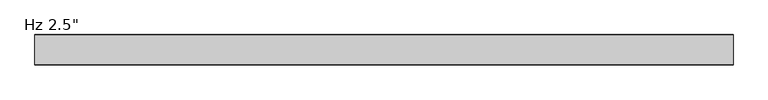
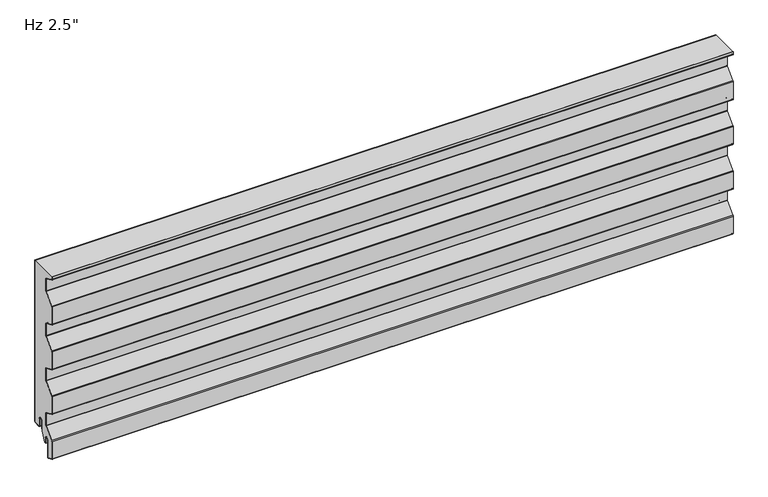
"""IFC4 building model written with IfcOpenShell, lengths in millimetres: plate geometry."""

from ifc_helpers import new_model, si_unit, point, frame, frame_2d, origin, place, context, project, spatial, polyline, circle_curve, trimmed, segment, composite_curve, outline, extrude, source, transform, mapped, element, save


def plate_a90ba0c7(model_context):
    return source(origin(), model_context, "Body", "SweptSolid", [
        extrude(outline(composite_curve([segment(polyline([(-26.4011912, 19.05), (-26.4011912, -3.1976612), (-36.533822, -23.01875), (-38.6886912, -23.01875), (-38.6886912, -11.90625)]), True, "CONTINUOUS"), segment(trimmed(circle_curve(frame_2d((-43.6574412, -11.90625)), 4.96875), [point((-38.6886912, -11.90625))], [point((-48.6261912, -11.90625))], True, "CARTESIAN"), True, "CONTINUOUS"), segment(polyline([(-48.6261912, -11.90625), (-48.6261912, -48.8194049)]), True, "CONTINUOUS"), segment(trimmed(circle_curve(frame_2d((-50.0074412, -48.8194049)), 1.38125), [point((-48.6261912, -48.8194049))], [point((-50.5666208, -50.0824052))], False, "CARTESIAN"), True, "CONTINUOUS"), segment(polyline([(-50.5666208, -50.0824052), (-61.6779296, -45.1629946)]), True, "CONTINUOUS"), segment(trimmed(circle_curve(frame_2d((-61.11875, -43.8999943)), 1.38125), [point((-61.6779296, -45.1629946))], [point((-62.5, -43.8999943))], False, "CARTESIAN"), True, "CONTINUOUS"), segment(polyline([(-62.5, -43.8999943), (-62.5, -5.0536946)]), True, "CONTINUOUS"), segment(trimmed(circle_curve(frame_2d((-60.4012, -5.0536946)), 2.0988), [point((-62.5, -5.0536946))], [point((-61.9092077, -3.5939431))], False, "CARTESIAN"), True, "CONTINUOUS"), segment(polyline([(-61.9092077, -3.5939431), (-41.7145567, 17.2682996)]), True, "CONTINUOUS"), segment(trimmed(circle_curve(frame_2d((-43.5737, 19.0679503)), 2.5875), [point((-41.7145567, 17.2682996))], [point((-40.9862, 19.0679503))], True, "CARTESIAN"), True, "CONTINUOUS"), segment(polyline([(-40.9862, 19.0679503), (-40.9862, 45.5917981)]), True, "CONTINUOUS"), segment(trimmed(circle_curve(frame_2d((-43.5737, 45.5917981)), 2.5875), [point((-40.9862, 45.5917981))], [point((-42.5261871, 47.9577806))], True, "CARTESIAN"), True, "CONTINUOUS"), segment(polyline([(-42.5261871, 47.9577806), (-61.6779296, 56.4370054)]), True, "CONTINUOUS"), segment(trimmed(circle_curve(frame_2d((-61.11875, 57.7000057)), 1.38125), [point((-61.6779296, 56.4370054))], [point((-62.5, 57.7000057))], False, "CARTESIAN"), True, "CONTINUOUS"), segment(polyline([(-62.5, 57.7000057), (-62.5, 96.8367131)]), True, "CONTINUOUS"), segment(trimmed(circle_curve(frame_2d((-61.11875, 96.8367131)), 1.38125), [point((-62.5, 96.8367131))], [point((-62.1111912, 97.7973962))], False, "CARTESIAN"), True, "CONTINUOUS"), segment(polyline([(-62.1111912, 97.7973962), (-41.7145567, 118.8682996)]), True, "CONTINUOUS"), segment(trimmed(circle_curve(frame_2d((-43.5737, 120.6679503)), 2.5875), [point((-41.7145567, 118.8682996))], [point((-40.9862, 120.6679503))], True, "CARTESIAN"), True, "CONTINUOUS"), segment(polyline([(-40.9862, 120.6679503), (-40.9862, 147.1917981)]), True, "CONTINUOUS"), segment(trimmed(circle_curve(frame_2d((-43.5737, 147.1917981)), 2.5875), [point((-40.9862, 147.1917981))], [point((-42.5261871, 149.5577806))], True, "CARTESIAN"), True, "CONTINUOUS"), segment(polyline([(-42.5261871, 149.5577806), (-61.6779296, 158.0370054)]), True, "CONTINUOUS"), segment(trimmed(circle_curve(frame_2d((-61.11875, 159.3000057)), 1.38125), [point((-61.6779296, 158.0370054))], [point((-62.5, 159.3000057))], False, "CARTESIAN"), True, "CONTINUOUS"), segment(polyline([(-62.5, 159.3000057), (-62.5, 198.4367131)]), True, "CONTINUOUS"), segment(trimmed(circle_curve(frame_2d((-61.11875, 198.4367131)), 1.38125), [point((-62.5, 198.4367131))], [point((-62.1111912, 199.3973962))], False, "CARTESIAN"), True, "CONTINUOUS"), segment(polyline([(-62.1111912, 199.3973962), (-41.7145567, 220.4682996)]), True, "CONTINUOUS"), segment(trimmed(circle_curve(frame_2d((-43.5737, 222.2679503)), 2.5875), [point((-41.7145567, 220.4682996))], [point((-40.9862, 222.2679503))], True, "CARTESIAN"), True, "CONTINUOUS"), segment(polyline([(-40.9862, 222.2679503), (-40.9862, 248.7917981)]), True, "CONTINUOUS"), segment(trimmed(circle_curve(frame_2d((-43.5737, 248.7917981)), 2.5875), [point((-40.9862, 248.7917981))], [point((-42.5261871, 251.1577806))], True, "CARTESIAN"), True, "CONTINUOUS"), segment(polyline([(-42.5261871, 251.1577806), (-61.6779296, 259.6370054)]), True, "CONTINUOUS"), segment(trimmed(circle_curve(frame_2d((-61.11875, 260.9000057)), 1.38125), [point((-61.6779296, 259.6370054))], [point((-62.5, 260.9000057))], False, "CARTESIAN"), True, "CONTINUOUS"), segment(polyline([(-62.5, 260.9000057), (-62.5, 300.0367131)]), True, "CONTINUOUS"), segment(trimmed(circle_curve(frame_2d((-61.11875, 300.0367131)), 1.38125), [point((-62.5, 300.0367131))], [point((-62.1111912, 300.9973962))], False, "CARTESIAN"), True, "CONTINUOUS"), segment(polyline([(-62.1111912, 300.9973962), (-41.7145567, 322.0682996)]), True, "CONTINUOUS"), segment(trimmed(circle_curve(frame_2d((-43.5737, 323.8679503)), 2.5875), [point((-41.7145567, 322.0682996))], [point((-40.9862, 323.8679503))], True, "CARTESIAN"), True, "CONTINUOUS"), segment(polyline([(-40.9862, 323.8679503), (-40.9862, 350.3917981)]), True, "CONTINUOUS"), segment(trimmed(circle_curve(frame_2d((-43.5737, 350.3917981)), 2.5875), [point((-40.9862, 350.3917981))], [point((-42.5261871, 352.7577806))], True, "CARTESIAN"), True, "CONTINUOUS"), segment(polyline([(-42.5261871, 352.7577806), (-61.6779296, 361.2370054)]), True, "CONTINUOUS"), segment(trimmed(circle_curve(frame_2d((-61.11875, 362.5000057)), 1.38125), [point((-61.6779296, 361.2370054))], [point((-62.5, 362.5000057))], False, "CARTESIAN"), True, "CONTINUOUS"), segment(polyline([(-62.5, 362.5000057), (-62.5, 368.0), (-1.0011912, 368.0), (-1.0011912, 3.175)]), True, "CONTINUOUS"), segment(trimmed(circle_curve(frame_2d((-2.3824412, 3.175)), 1.38125), [point((-1.0011912, 3.175))], [point((-2.3824412, 1.79375))], False, "CARTESIAN"), True, "CONTINUOUS"), segment(polyline([(-2.3824412, 1.79375), (-15.0824412, 1.79375)]), True, "CONTINUOUS"), segment(trimmed(circle_curve(frame_2d((-15.0824412, 3.175)), 1.38125), [point((-15.0824412, 1.79375))], [point((-16.4636912, 3.175))], False, "CARTESIAN"), True, "CONTINUOUS"), segment(polyline([(-16.4636912, 3.175), (-16.4636912, 19.05)]), True, "CONTINUOUS"), segment(trimmed(circle_curve(frame_2d((-21.4324412, 19.05)), 4.96875), [point((-16.4636912, 19.05))], [point((-26.4011912, 19.05))], True, "CARTESIAN"), True, "CONTINUOUS")], self_intersect=False)), frame((-730.0, 0.0, 0.0), z_axis=(1.0, 0.0, 0.0), x_axis=(0.0, 1.0, 0.0)), (0.0, 0.0, 1.0), 1460.0),
        extrude(outline(composite_curve([segment(polyline([(-25.4, 0.79375), (-26.4, 0.79375), (-26.4, 19.05)]), True, "CONTINUOUS"), segment(trimmed(circle_curve(frame_2d((-21.43125, 19.05)), 4.96875), [point((-26.4, 19.05))], [point((-16.4625, 19.05))], False, "CARTESIAN"), True, "CONTINUOUS"), segment(polyline([(-16.4625, 19.05), (-16.4625, 3.175)]), True, "CONTINUOUS"), segment(trimmed(circle_curve(frame_2d((-15.08125, 3.175)), 1.38125), [point((-16.4625, 3.175))], [point((-15.08125, 1.79375))], True, "CARTESIAN"), True, "CONTINUOUS"), segment(polyline([(-15.08125, 1.79375), (-2.38125, 1.79375)]), True, "CONTINUOUS"), segment(trimmed(circle_curve(frame_2d((-2.38125, 3.175)), 1.38125), [point((-2.38125, 1.79375))], [point((-1.0, 3.175))], True, "CARTESIAN"), True, "CONTINUOUS"), segment(polyline([(-1.0, 3.175), (-1.0, 368.0), (0.0, 368.0), (0.0, 3.175)]), True, "CONTINUOUS"), segment(trimmed(circle_curve(frame_2d((-2.38125, 3.175)), 2.38125), [point((0.0, 3.175))], [point((-2.38125, 0.79375))], False, "CARTESIAN"), True, "CONTINUOUS"), segment(polyline([(-2.38125, 0.79375), (-15.08125, 0.79375)]), True, "CONTINUOUS"), segment(trimmed(circle_curve(frame_2d((-15.08125, 3.175)), 2.38125), [point((-15.08125, 0.79375))], [point((-17.4625, 3.175))], False, "CARTESIAN"), True, "CONTINUOUS"), segment(polyline([(-17.4625, 3.175), (-17.4625, 19.05)]), True, "CONTINUOUS"), segment(trimmed(circle_curve(frame_2d((-21.43125, 19.05)), 3.96875), [point((-17.4625, 19.05))], [point((-25.4, 19.05))], True, "CARTESIAN"), True, "CONTINUOUS"), segment(polyline([(-25.4, 19.05), (-25.4, 0.79375)]), True, "CONTINUOUS")], self_intersect=False)), frame((-730.0, 0.0, 0.0), z_axis=(1.0, 0.0, 0.0), x_axis=(0.0, 1.0, 0.0)), (0.0, 0.0, 1.0), 1460.0),
        extrude(outline(composite_curve([segment(polyline([(-47.6261912, -11.90625), (-47.6261912, -48.8194049)]), True, "CONTINUOUS"), segment(trimmed(circle_curve(frame_2d((-50.0074412, -48.8194049)), 2.38125), [point((-47.6261912, -48.8194049))], [point((-50.9714567, -50.9967946))], False, "CARTESIAN"), True, "CONTINUOUS"), segment(polyline([(-50.9714567, -50.9967946), (-62.0827655, -46.0773839)]), True, "CONTINUOUS"), segment(trimmed(circle_curve(frame_2d((-61.11875, -43.8999943)), 2.38125), [point((-62.0827655, -46.0773839))], [point((-63.5, -43.8999943))], False, "CARTESIAN"), True, "CONTINUOUS"), segment(polyline([(-63.5, -43.8999943), (-63.5, -5.0536946)]), True, "CONTINUOUS"), segment(trimmed(circle_curve(frame_2d((-60.4012, -5.0536946)), 3.0988), [point((-63.5, -5.0536946))], [point((-62.6277172, -2.8984259))], False, "CARTESIAN"), True, "CONTINUOUS"), segment(polyline([(-62.6277172, -2.8984259), (-42.4330662, 17.9638168)]), True, "CONTINUOUS"), segment(trimmed(circle_curve(frame_2d((-43.5737, 19.0679503)), 1.5875), [point((-42.4330662, 17.9638168))], [point((-41.9862, 19.0679503))], True, "CARTESIAN"), True, "CONTINUOUS"), segment(polyline([(-41.9862, 19.0679503), (-41.9862, 45.5917981)]), True, "CONTINUOUS"), segment(trimmed(circle_curve(frame_2d((-43.5737, 45.5917981)), 1.5875), [point((-41.9862, 45.5917981))], [point((-42.931023, 47.0433912))], True, "CARTESIAN"), True, "CONTINUOUS"), segment(polyline([(-42.931023, 47.0433912), (-62.0827655, 55.5226161)]), True, "CONTINUOUS"), segment(trimmed(circle_curve(frame_2d((-61.11875, 57.7000057)), 2.38125), [point((-62.0827655, 55.5226161))], [point((-63.5, 57.7000057))], False, "CARTESIAN"), True, "CONTINUOUS"), segment(polyline([(-63.5, 57.7000057), (-63.5, 96.8367131)]), True, "CONTINUOUS"), segment(trimmed(circle_curve(frame_2d((-61.11875, 96.8367131)), 2.38125), [point((-63.5, 96.8367131))], [point((-62.8297007, 98.4929134))], False, "CARTESIAN"), True, "CONTINUOUS"), segment(polyline([(-62.8297007, 98.4929134), (-42.4330662, 119.5638168)]), True, "CONTINUOUS"), segment(trimmed(circle_curve(frame_2d((-43.5737, 120.6679503)), 1.5875), [point((-42.4330662, 119.5638168))], [point((-41.9862, 120.6679503))], True, "CARTESIAN"), True, "CONTINUOUS"), segment(polyline([(-41.9862, 120.6679503), (-41.9862, 147.1917981)]), True, "CONTINUOUS"), segment(trimmed(circle_curve(frame_2d((-43.5737, 147.1917981)), 1.5875), [point((-41.9862, 147.1917981))], [point((-42.931023, 148.6433912))], True, "CARTESIAN"), True, "CONTINUOUS"), segment(polyline([(-42.931023, 148.6433912), (-62.0827655, 157.1226161)]), True, "CONTINUOUS"), segment(trimmed(circle_curve(frame_2d((-61.11875, 159.3000057)), 2.38125), [point((-62.0827655, 157.1226161))], [point((-63.5, 159.3000057))], False, "CARTESIAN"), True, "CONTINUOUS"), segment(polyline([(-63.5, 159.3000057), (-63.5, 198.4367131)]), True, "CONTINUOUS"), segment(trimmed(circle_curve(frame_2d((-61.11875, 198.4367131)), 2.38125), [point((-63.5, 198.4367131))], [point((-62.8297007, 200.0929134))], False, "CARTESIAN"), True, "CONTINUOUS"), segment(polyline([(-62.8297007, 200.0929134), (-42.4330662, 221.1638168)]), True, "CONTINUOUS"), segment(trimmed(circle_curve(frame_2d((-43.5737, 222.2679503)), 1.5875), [point((-42.4330662, 221.1638168))], [point((-41.9862, 222.2679503))], True, "CARTESIAN"), True, "CONTINUOUS"), segment(polyline([(-41.9862, 222.2679503), (-41.9862, 248.7917981)]), True, "CONTINUOUS"), segment(trimmed(circle_curve(frame_2d((-43.5737, 248.7917981)), 1.5875), [point((-41.9862, 248.7917981))], [point((-42.931023, 250.2433912))], True, "CARTESIAN"), True, "CONTINUOUS"), segment(polyline([(-42.931023, 250.2433912), (-62.0827655, 258.7226161)]), True, "CONTINUOUS"), segment(trimmed(circle_curve(frame_2d((-61.11875, 260.9000057)), 2.38125), [point((-62.0827655, 258.7226161))], [point((-63.5, 260.9000057))], False, "CARTESIAN"), True, "CONTINUOUS"), segment(polyline([(-63.5, 260.9000057), (-63.5, 300.0367131)]), True, "CONTINUOUS"), segment(trimmed(circle_curve(frame_2d((-61.11875, 300.0367131)), 2.38125), [point((-63.5, 300.0367131))], [point((-62.8297007, 301.6929134))], False, "CARTESIAN"), True, "CONTINUOUS"), segment(polyline([(-62.8297007, 301.6929134), (-42.4330662, 322.7638168)]), True, "CONTINUOUS"), segment(trimmed(circle_curve(frame_2d((-43.5737, 323.8679503)), 1.5875), [point((-42.4330662, 322.7638168))], [point((-41.9862, 323.8679503))], True, "CARTESIAN"), True, "CONTINUOUS"), segment(polyline([(-41.9862, 323.8679503), (-41.9862, 350.3917981)]), True, "CONTINUOUS"), segment(trimmed(circle_curve(frame_2d((-43.5737, 350.3917981)), 1.5875), [point((-41.9862, 350.3917981))], [point((-42.931023, 351.8433912))], True, "CARTESIAN"), True, "CONTINUOUS"), segment(polyline([(-42.931023, 351.8433912), (-62.0827655, 360.3226161)]), True, "CONTINUOUS"), segment(trimmed(circle_curve(frame_2d((-61.11875, 362.5000057)), 2.38125), [point((-62.0827655, 360.3226161))], [point((-63.5, 362.5000057))], False, "CARTESIAN"), True, "CONTINUOUS"), segment(polyline([(-63.5, 362.5000057), (-63.5, 368.0), (-62.5, 368.0), (-62.5, 362.5000057)]), True, "CONTINUOUS"), segment(trimmed(circle_curve(frame_2d((-61.11875, 362.5000057)), 1.38125), [point((-62.5, 362.5000057))], [point((-61.6779296, 361.2370054))], True, "CARTESIAN"), True, "CONTINUOUS"), segment(polyline([(-61.6779296, 361.2370054), (-42.5261871, 352.7577806)]), True, "CONTINUOUS"), segment(trimmed(circle_curve(frame_2d((-43.5737, 350.3917981)), 2.5875), [point((-42.5261871, 352.7577806))], [point((-40.9862, 350.3917981))], False, "CARTESIAN"), True, "CONTINUOUS"), segment(polyline([(-40.9862, 350.3917981), (-40.9862, 323.8679503)]), True, "CONTINUOUS"), segment(trimmed(circle_curve(frame_2d((-43.5737, 323.8679503)), 2.5875), [point((-40.9862, 323.8679503))], [point((-41.7145567, 322.0682996))], False, "CARTESIAN"), True, "CONTINUOUS"), segment(polyline([(-41.7145567, 322.0682996), (-62.1111912, 300.9973962)]), True, "CONTINUOUS"), segment(trimmed(circle_curve(frame_2d((-61.11875, 300.0367131)), 1.38125), [point((-62.1111912, 300.9973962))], [point((-62.5, 300.0367131))], True, "CARTESIAN"), True, "CONTINUOUS"), segment(polyline([(-62.5, 300.0367131), (-62.5, 260.9000057)]), True, "CONTINUOUS"), segment(trimmed(circle_curve(frame_2d((-61.11875, 260.9000057)), 1.38125), [point((-62.5, 260.9000057))], [point((-61.6779296, 259.6370054))], True, "CARTESIAN"), True, "CONTINUOUS"), segment(polyline([(-61.6779296, 259.6370054), (-42.5261871, 251.1577806)]), True, "CONTINUOUS"), segment(trimmed(circle_curve(frame_2d((-43.5737, 248.7917981)), 2.5875), [point((-42.5261871, 251.1577806))], [point((-40.9862, 248.7917981))], False, "CARTESIAN"), True, "CONTINUOUS"), segment(polyline([(-40.9862, 248.7917981), (-40.9862, 222.2679503)]), True, "CONTINUOUS"), segment(trimmed(circle_curve(frame_2d((-43.5737, 222.2679503)), 2.5875), [point((-40.9862, 222.2679503))], [point((-41.7145567, 220.4682996))], False, "CARTESIAN"), True, "CONTINUOUS"), segment(polyline([(-41.7145567, 220.4682996), (-62.1111912, 199.3973962)]), True, "CONTINUOUS"), segment(trimmed(circle_curve(frame_2d((-61.11875, 198.4367131)), 1.38125), [point((-62.1111912, 199.3973962))], [point((-62.5, 198.4367131))], True, "CARTESIAN"), True, "CONTINUOUS"), segment(polyline([(-62.5, 198.4367131), (-62.5, 159.3000057)]), True, "CONTINUOUS"), segment(trimmed(circle_curve(frame_2d((-61.11875, 159.3000057)), 1.38125), [point((-62.5, 159.3000057))], [point((-61.6779296, 158.0370054))], True, "CARTESIAN"), True, "CONTINUOUS"), segment(polyline([(-61.6779296, 158.0370054), (-42.5261871, 149.5577806)]), True, "CONTINUOUS"), segment(trimmed(circle_curve(frame_2d((-43.5737, 147.1917981)), 2.5875), [point((-42.5261871, 149.5577806))], [point((-40.9862, 147.1917981))], False, "CARTESIAN"), True, "CONTINUOUS"), segment(polyline([(-40.9862, 147.1917981), (-40.9862, 120.6679503)]), True, "CONTINUOUS"), segment(trimmed(circle_curve(frame_2d((-43.5737, 120.6679503)), 2.5875), [point((-40.9862, 120.6679503))], [point((-41.7145567, 118.8682996))], False, "CARTESIAN"), True, "CONTINUOUS"), segment(polyline([(-41.7145567, 118.8682996), (-62.1111912, 97.7973962)]), True, "CONTINUOUS"), segment(trimmed(circle_curve(frame_2d((-61.11875, 96.8367131)), 1.38125), [point((-62.1111912, 97.7973962))], [point((-62.5, 96.8367131))], True, "CARTESIAN"), True, "CONTINUOUS"), segment(polyline([(-62.5, 96.8367131), (-62.5, 57.7000057)]), True, "CONTINUOUS"), segment(trimmed(circle_curve(frame_2d((-61.11875, 57.7000057)), 1.38125), [point((-62.5, 57.7000057))], [point((-61.6779296, 56.4370054))], True, "CARTESIAN"), True, "CONTINUOUS"), segment(polyline([(-61.6779296, 56.4370054), (-42.5261871, 47.9577806)]), True, "CONTINUOUS"), segment(trimmed(circle_curve(frame_2d((-43.5737, 45.5917981)), 2.5875), [point((-42.5261871, 47.9577806))], [point((-40.9862, 45.5917981))], False, "CARTESIAN"), True, "CONTINUOUS"), segment(polyline([(-40.9862, 45.5917981), (-40.9862, 19.0679503)]), True, "CONTINUOUS"), segment(trimmed(circle_curve(frame_2d((-43.5737, 19.0679503)), 2.5875), [point((-40.9862, 19.0679503))], [point((-41.7145567, 17.2682996))], False, "CARTESIAN"), True, "CONTINUOUS"), segment(polyline([(-41.7145567, 17.2682996), (-61.9092077, -3.5939431)]), True, "CONTINUOUS"), segment(trimmed(circle_curve(frame_2d((-60.4012, -5.0536946)), 2.0988), [point((-61.9092077, -3.5939431))], [point((-62.5, -5.0536946))], True, "CARTESIAN"), True, "CONTINUOUS"), segment(polyline([(-62.5, -5.0536946), (-62.5, -43.8999943)]), True, "CONTINUOUS"), segment(trimmed(circle_curve(frame_2d((-61.11875, -43.8999943)), 1.38125), [point((-62.5, -43.8999943))], [point((-61.6779296, -45.1629946))], True, "CARTESIAN"), True, "CONTINUOUS"), segment(polyline([(-61.6779296, -45.1629946), (-50.5666208, -50.0824052)]), True, "CONTINUOUS"), segment(trimmed(circle_curve(frame_2d((-50.0074412, -48.8194049)), 1.38125), [point((-50.5666208, -50.0824052))], [point((-48.6261912, -48.8194049))], True, "CARTESIAN"), True, "CONTINUOUS"), segment(polyline([(-48.6261912, -48.8194049), (-48.6261912, -11.90625)]), True, "CONTINUOUS"), segment(trimmed(circle_curve(frame_2d((-43.6574412, -11.90625)), 4.96875), [point((-48.6261912, -11.90625))], [point((-38.6886912, -11.90625))], False, "CARTESIAN"), True, "CONTINUOUS"), segment(polyline([(-38.6886912, -11.90625), (-38.6886912, -23.01875), (-39.6886912, -23.01875), (-39.6886912, -11.90625)]), True, "CONTINUOUS"), segment(trimmed(circle_curve(frame_2d((-43.6574412, -11.90625)), 3.96875), [point((-39.6886912, -11.90625))], [point((-47.6261912, -11.90625))], True, "CARTESIAN"), True, "CONTINUOUS")], self_intersect=False)), frame((-730.0, 0.0, 0.0), z_axis=(1.0, 0.0, 0.0), x_axis=(0.0, 1.0, 0.0)), (0.0, 0.0, 1.0), 1460.0),
    ])


if __name__ == "__main__":
    model = new_model("IFC4")
    model_context = context("Model", 3, world=origin())
    ifc_project = project(units=[si_unit("LENGTHUNIT", "METRE", prefix="MILLI")], contexts=[model_context])
    site = spatial("IfcSite", under=ifc_project)
    building = spatial("IfcBuilding", under=site)
    placement = place(None, origin())
    plate_shape = plate_a90ba0c7(model_context)
    element("IfcPlate", 1, ObjectType="KIP-20-DWR-R19-CP-Hz-S : Hz 2.5\"", at=placement, inside=building, context=model_context, shape_type="MappedRepresentation", body=[
        mapped(plate_shape, transform((0.0, 0.0, 0.0), x_axis=(1.0, 0.0, 0.0), y_axis=(0.0, 1.0, 0.0), z_axis=(0.0, 0.0, 1.0))),
    ])
    save(model, "model.ifc")
